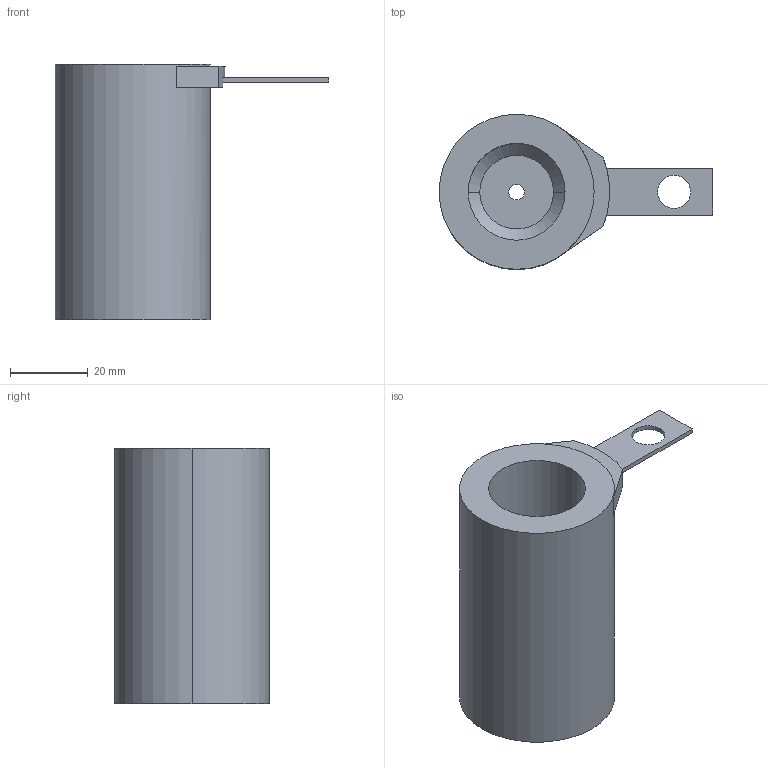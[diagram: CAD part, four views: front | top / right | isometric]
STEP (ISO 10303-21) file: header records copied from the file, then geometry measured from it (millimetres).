
FILE_DESCRIPTION(/* description */ (''),/* implementation_level */ '2;1');
FILE_NAME(/* name */ '3d_tus25-66_06259_r00.stp',/* time_stamp */ '2011-01-10T14:08:54+09:00',/* author */ ('MISUMI'),/* organization */ (''),/* preprocessor_version */ 'ST-DEVELOPER v11',/* originating_system */ 'UGS - NX 5.0',/* authorisation */ '');
FILE_SCHEMA (('CONFIG_CONTROL_DESIGN'));
Length unit declared in the file: millimetre
Products named in the file (1): 3d_tus25-66_06259_r00
Bounding box: 70.64 x 40 x 66 mm (x, y, z)
Volume: 55006.1 mm3; surface area: 16358.9 mm2
Topology: 2 solids, 2 shells, 28 faces, 67 edges, 44 vertices
Faces by surface type: plane 17, cylinder 9, cone 2
Entity records: 915 total; most frequent: DIRECTION 153, CARTESIAN_POINT 140, ORIENTED_EDGE 134, EDGE_CURVE 67, AXIS2_PLACEMENT_3D 57, VERTEX_POINT 44, LINE 39, VECTOR 39
